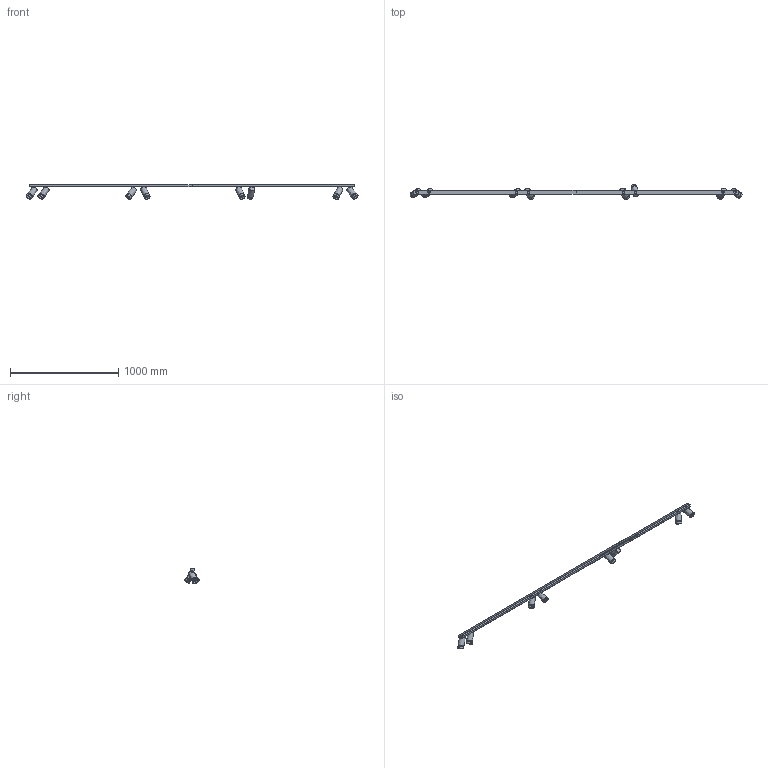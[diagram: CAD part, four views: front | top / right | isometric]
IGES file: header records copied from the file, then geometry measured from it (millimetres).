
Start section: SolidWorks IGES file using NURBS representation for surfaces
Global section: file name: Z:\Modele 3D_WWW\_KOLEKCJE_WWW\MONO\MONO-CORNER\7694\MONO-VIII-2X150-GOLD-7694.IGS; native system: SolidWorks 2021; preprocessor: SolidWorks 2021; author: gabriela.tworek; date: 220119.125730; units: millimetre
Bounding box: 3070.79 x 137.6 x 135.98 mm (x, y, z)
Surface area: 901607.2 mm2 (no closed solid volume)
Topology: 0 solids, 0 shells, 452 faces, 2640 edges, 2552 vertices
Faces by surface type: bspline 452
